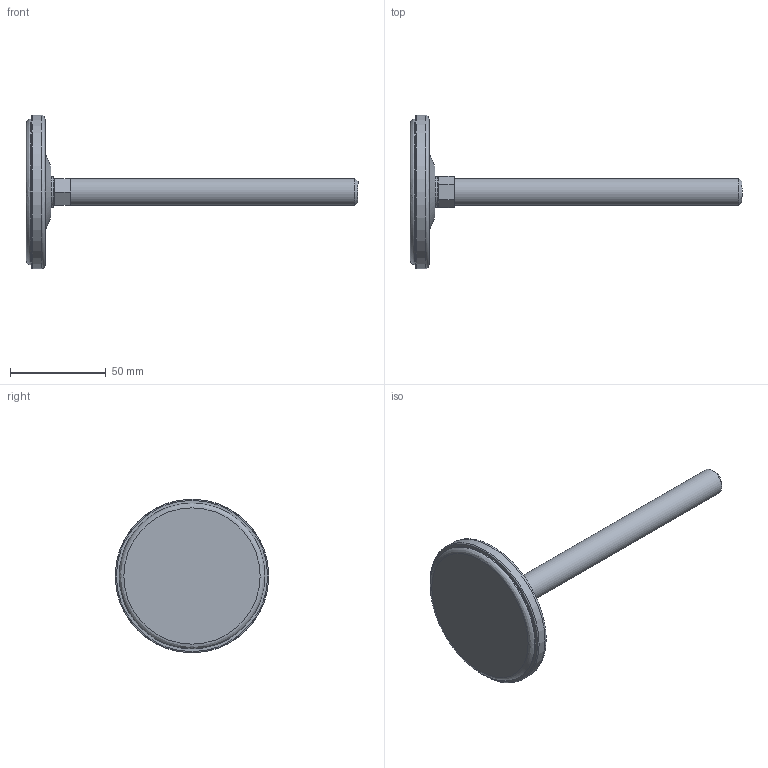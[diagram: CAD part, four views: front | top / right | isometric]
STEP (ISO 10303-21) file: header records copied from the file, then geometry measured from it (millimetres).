
FILE_DESCRIPTION(('STEP AP203'),'2;1');
FILE_NAME('15202-G.stp','2016-09-12T09:20:11',(''),(''),'2008.1.107','THINKDESIGN','');
FILE_SCHEMA(('CONFIG_CONTROL_DESIGN'));
Length unit declared in the file: millimetre
Bounding box: 173 x 80 x 80 mm (x, y, z)
Volume: 74504.7 mm3; surface area: 30906.3 mm2
Topology: 6 solids, 6 shells, 49 faces, 118 edges, 84 vertices
Faces by surface type: plane 21, cylinder 15, bspline 13
Full cylindrical faces by diameter (mm): 9.8 x1, 10 x1, 10.5 x2, 14 x1, 16 x1, 76 x2, 80 x1
Entity records: 3013 total; most frequent: CARTESIAN_POINT 1732, DIRECTION 256, ORIENTED_EDGE 236, EDGE_CURVE 118, AXIS2_PLACEMENT_3D 108, VERTEX_POINT 84, CIRCLE 72, EDGE_LOOP 58
